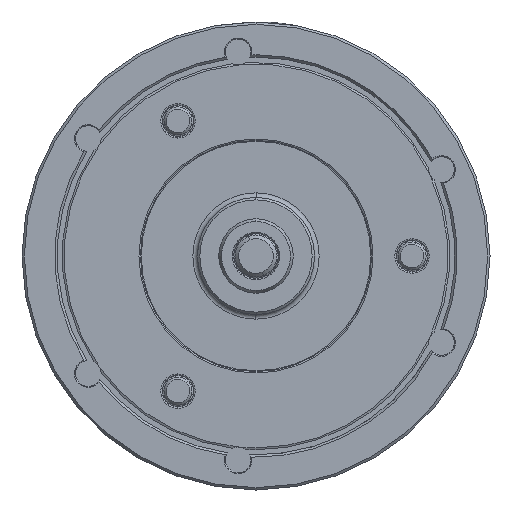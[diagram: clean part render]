
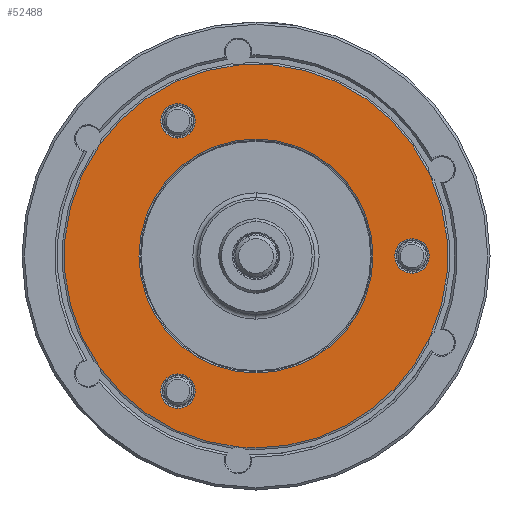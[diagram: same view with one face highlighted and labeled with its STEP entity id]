
A CAD part, left-side view. The second image highlights one B-rep face of the part: STEP entity #52488.
In plain terms, the highlighted planar face has unit normal (-1, 0, 0) as drawn and (0, 0, -1) by its records, which use the part's own axes.
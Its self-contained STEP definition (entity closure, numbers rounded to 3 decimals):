
#849 = CIRCLE ( 'NONE', #4214, 82. ) ;
#856 = AXIS2_PLACEMENT_3D ( 'NONE', #50148, #50081, #50033 ) ;
#1262 = AXIS2_PLACEMENT_3D ( 'NONE', #4658, #4594, #4538 ) ;
#1303 = CIRCLE ( 'NONE', #46710, 7.35 ) ;
#1384 = EDGE_LOOP ( 'NONE', ( #47715, #8548, #44531, #17719, #28834, #40669, #28831 ) ) ;
#1495 = CIRCLE ( 'NONE', #856, 82. ) ;
#1609 = CIRCLE ( 'NONE', #5305, 7.35 ) ;
#1864 = CARTESIAN_POINT ( 'NONE',  ( 7.35, -66.675, -83. ) ) ;
#1945 = AXIS2_PLACEMENT_3D ( 'NONE', #2808, #2752, #2493 ) ;
#2491 = AXIS2_PLACEMENT_3D ( 'NONE', #10646, #10642, #10584 ) ;
#2493 = DIRECTION ( 'NONE',  ( 1., 0., 0. ) ) ;
#2752 = DIRECTION ( 'NONE',  ( 0., 0., 1. ) ) ;
#2808 = CARTESIAN_POINT ( 'NONE',  ( 0., 0., -83. ) ) ;
#3345 = AXIS2_PLACEMENT_3D ( 'NONE', #27079, #27043, #26974 ) ;
#3351 = CARTESIAN_POINT ( 'NONE',  ( 0., -50., -83. ) ) ;
#3620 = EDGE_LOOP ( 'NONE', ( #51012, #45345 ) ) ;
#3848 = AXIS2_PLACEMENT_3D ( 'NONE', #35034, #35027, #34971 ) ;
#4214 = AXIS2_PLACEMENT_3D ( 'NONE', #32548, #32537, #32495 ) ;
#4538 = DIRECTION ( 'NONE',  ( 1., 0., 0. ) ) ;
#4594 = DIRECTION ( 'NONE',  ( 0., 0., 1. ) ) ;
#4658 = CARTESIAN_POINT ( 'NONE',  ( 0., 0., -83. ) ) ;
#5305 = AXIS2_PLACEMENT_3D ( 'NONE', #53949, #53913, #53847 ) ;
#5318 = CARTESIAN_POINT ( 'NONE',  ( 57.742, 33.338, -83. ) ) ;
#5916 = FACE_BOUND ( 'NONE', #24325, .T. ) ;
#6729 = ORIENTED_EDGE ( 'NONE', *, *, #10225, .T. ) ;
#7711 = DIRECTION ( 'NONE',  ( 0., 0., 1. ) ) ;
#7932 = AXIS2_PLACEMENT_3D ( 'NONE', #39203, #39152, #39137 ) ;
#8548 = ORIENTED_EDGE ( 'NONE', *, *, #29604, .F. ) ;
#9680 = DIRECTION ( 'NONE',  ( 1., 0., 0. ) ) ;
#10225 = EDGE_CURVE ( 'NONE', #47437, #18646, #1303, .T. ) ;
#10584 = DIRECTION ( 'NONE',  ( 1., 0., 0. ) ) ;
#10642 = DIRECTION ( 'NONE',  ( 0., 0., 1. ) ) ;
#10646 = CARTESIAN_POINT ( 'NONE',  ( 0., 0., -83. ) ) ;
#12364 = CIRCLE ( 'NONE', #3345, 7.35 ) ;
#12805 = CARTESIAN_POINT ( 'NONE',  ( 34.655, -74.317, -83. ) ) ;
#13046 = VERTEX_POINT ( 'NONE', #49740 ) ;
#13159 = VERTEX_POINT ( 'NONE', #45800 ) ;
#14035 = VERTEX_POINT ( 'NONE', #12805 ) ;
#14374 = DIRECTION ( 'NONE',  ( 0., 0., 1. ) ) ;
#15544 = CARTESIAN_POINT ( 'NONE',  ( 0., 0., -83. ) ) ;
#15936 = AXIS2_PLACEMENT_3D ( 'NONE', #3351, #7711, #37271 ) ;
#16033 = CIRCLE ( 'NONE', #20453, 7.35 ) ;
#17249 = FACE_OUTER_BOUND ( 'NONE', #1384, .T. ) ;
#17719 = ORIENTED_EDGE ( 'NONE', *, *, #30017, .F. ) ;
#18646 = VERTEX_POINT ( 'NONE', #26683 ) ;
#19435 = VERTEX_POINT ( 'NONE', #35440 ) ;
#19482 = VERTEX_POINT ( 'NONE', #32843 ) ;
#19834 = DIRECTION ( 'NONE',  ( 1., 0., 0. ) ) ;
#20232 = CARTESIAN_POINT ( 'NONE',  ( -81.688, 7.147, -83. ) ) ;
#20453 = AXIS2_PLACEMENT_3D ( 'NONE', #5318, #34981, #9680 ) ;
#21019 = CIRCLE ( 'NONE', #1262, 82. ) ;
#21246 = CARTESIAN_POINT ( 'NONE',  ( -47.033, 67.17, -83. ) ) ;
#21702 = VERTEX_POINT ( 'NONE', #21246 ) ;
#22738 = ORIENTED_EDGE ( 'NONE', *, *, #31764, .T. ) ;
#23701 = CARTESIAN_POINT ( 'NONE',  ( 82., 0., -83. ) ) ;
#23925 = CARTESIAN_POINT ( 'NONE',  ( 65.092, 33.338, -83. ) ) ;
#24325 = EDGE_LOOP ( 'NONE', ( #25718, #22738 ) ) ;
#24995 = VERTEX_POINT ( 'NONE', #23701 ) ;
#25095 = ORIENTED_EDGE ( 'NONE', *, *, #28875, .T. ) ;
#25718 = ORIENTED_EDGE ( 'NONE', *, *, #47933, .T. ) ;
#26473 = EDGE_CURVE ( 'NONE', #14035, #24995, #31122, .T. ) ;
#26683 = CARTESIAN_POINT ( 'NONE',  ( -7.35, -66.675, -83. ) ) ;
#26974 = DIRECTION ( 'NONE',  ( 1., 0., 0. ) ) ;
#27043 = DIRECTION ( 'NONE',  ( 0., 0., 1. ) ) ;
#27079 = CARTESIAN_POINT ( 'NONE',  ( 0., -66.675, -83. ) ) ;
#27378 = DIRECTION ( 'NONE',  ( 1., 0., 0. ) ) ;
#27393 = DIRECTION ( 'NONE',  ( 0., 0., 1. ) ) ;
#27513 = CARTESIAN_POINT ( 'NONE',  ( 0., 0., -83. ) ) ;
#28085 = EDGE_CURVE ( 'NONE', #19435, #31144, #1609, .T. ) ;
#28531 = VERTEX_POINT ( 'NONE', #38470 ) ;
#28539 = FACE_BOUND ( 'NONE', #29603, .T. ) ;
#28603 = AXIS2_PLACEMENT_3D ( 'NONE', #15544, #44751, #19834 ) ;
#28627 = EDGE_CURVE ( 'NONE', #53091, #19482, #43820, .T. ) ;
#28831 = ORIENTED_EDGE ( 'NONE', *, *, #31000, .F. ) ;
#28834 = ORIENTED_EDGE ( 'NONE', *, *, #30239, .F. ) ;
#28875 = EDGE_CURVE ( 'NONE', #18646, #47437, #12364, .T. ) ;
#29372 = EDGE_CURVE ( 'NONE', #43019, #13046, #41134, .T. ) ;
#29603 = EDGE_LOOP ( 'NONE', ( #6729, #25095 ) ) ;
#29604 = EDGE_CURVE ( 'NONE', #24995, #43019, #32128, .T. ) ;
#30017 = EDGE_CURVE ( 'NONE', #45542, #14035, #21019, .T. ) ;
#30239 = EDGE_CURVE ( 'NONE', #44759, #45542, #1495, .T. ) ;
#30843 = EDGE_CURVE ( 'NONE', #21702, #44759, #849, .T. ) ;
#31000 = EDGE_CURVE ( 'NONE', #13046, #21702, #49004, .T. ) ;
#31122 = CIRCLE ( 'NONE', #7932, 82. ) ;
#31144 = VERTEX_POINT ( 'NONE', #23925 ) ;
#31764 = EDGE_CURVE ( 'NONE', #13159, #28531, #48283, .T. ) ;
#32128 = CIRCLE ( 'NONE', #1945, 82. ) ;
#32170 = DIRECTION ( 'NONE',  ( 1., 0., 0. ) ) ;
#32238 = DIRECTION ( 'NONE',  ( 0., 0., 1. ) ) ;
#32298 = CARTESIAN_POINT ( 'NONE',  ( 0., 0., -83. ) ) ;
#32495 = DIRECTION ( 'NONE',  ( 1., 0., 0. ) ) ;
#32537 = DIRECTION ( 'NONE',  ( 0., 0., 1. ) ) ;
#32548 = CARTESIAN_POINT ( 'NONE',  ( 0., 0., -83. ) ) ;
#32843 = CARTESIAN_POINT ( 'NONE',  ( -50.392, 33.338, -83. ) ) ;
#33109 = PLANE ( 'NONE',  #15936 ) ;
#33428 = CARTESIAN_POINT ( 'NONE',  ( 81.688, 7.147, -83. ) ) ;
#34735 = CIRCLE ( 'NONE', #35259, 7.35 ) ;
#34971 = DIRECTION ( 'NONE',  ( 1., 0., 0. ) ) ;
#34981 = DIRECTION ( 'NONE',  ( 0., 0., 1. ) ) ;
#35027 = DIRECTION ( 'NONE',  ( 0., 0., 1. ) ) ;
#35034 = CARTESIAN_POINT ( 'NONE',  ( -57.742, 33.338, -83. ) ) ;
#35259 = AXIS2_PLACEMENT_3D ( 'NONE', #39469, #14374, #43629 ) ;
#35440 = CARTESIAN_POINT ( 'NONE',  ( 50.392, 33.338, -83. ) ) ;
#35751 = AXIS2_PLACEMENT_3D ( 'NONE', #27513, #27393, #27378 ) ;
#37271 = DIRECTION ( 'NONE',  ( 1., 0., 0. ) ) ;
#38470 = CARTESIAN_POINT ( 'NONE',  ( -50., 0., -83. ) ) ;
#38730 = EDGE_LOOP ( 'NONE', ( #53503, #50586 ) ) ;
#39041 = CIRCLE ( 'NONE', #28603, 50. ) ;
#39137 = DIRECTION ( 'NONE',  ( 1., 0., 0. ) ) ;
#39152 = DIRECTION ( 'NONE',  ( 0., 0., 1. ) ) ;
#39203 = CARTESIAN_POINT ( 'NONE',  ( 0., 0., -83. ) ) ;
#39469 = CARTESIAN_POINT ( 'NONE',  ( -57.742, 33.338, -83. ) ) ;
#39532 = FACE_BOUND ( 'NONE', #3620, .T. ) ;
#40669 = ORIENTED_EDGE ( 'NONE', *, *, #30843, .F. ) ;
#41134 = CIRCLE ( 'NONE', #2491, 82. ) ;
#41729 = DIRECTION ( 'NONE',  ( 0., 0., 1. ) ) ;
#41792 = CARTESIAN_POINT ( 'NONE',  ( 0., -66.675, -83. ) ) ;
#41969 = DIRECTION ( 'NONE',  ( 1., 0., 0. ) ) ;
#42093 = FACE_BOUND ( 'NONE', #38730, .T. ) ;
#43019 = VERTEX_POINT ( 'NONE', #33428 ) ;
#43629 = DIRECTION ( 'NONE',  ( 1., 0., 0. ) ) ;
#43820 = CIRCLE ( 'NONE', #3848, 7.35 ) ;
#44531 = ORIENTED_EDGE ( 'NONE', *, *, #26473, .F. ) ;
#44751 = DIRECTION ( 'NONE',  ( 0., 0., 1. ) ) ;
#44759 = VERTEX_POINT ( 'NONE', #20232 ) ;
#44927 = CARTESIAN_POINT ( 'NONE',  ( -65.092, 33.338, -83. ) ) ;
#45345 = ORIENTED_EDGE ( 'NONE', *, *, #28085, .T. ) ;
#45367 = EDGE_CURVE ( 'NONE', #19482, #53091, #34735, .T. ) ;
#45542 = VERTEX_POINT ( 'NONE', #45775 ) ;
#45775 = CARTESIAN_POINT ( 'NONE',  ( -34.655, -74.317, -83. ) ) ;
#45800 = CARTESIAN_POINT ( 'NONE',  ( 50., 0., -83. ) ) ;
#46710 = AXIS2_PLACEMENT_3D ( 'NONE', #41792, #41729, #41969 ) ;
#47437 = VERTEX_POINT ( 'NONE', #1864 ) ;
#47715 = ORIENTED_EDGE ( 'NONE', *, *, #29372, .F. ) ;
#47933 = EDGE_CURVE ( 'NONE', #28531, #13159, #39041, .T. ) ;
#48283 = CIRCLE ( 'NONE', #50963, 50. ) ;
#49004 = CIRCLE ( 'NONE', #35751, 82. ) ;
#49740 = CARTESIAN_POINT ( 'NONE',  ( 47.033, 67.17, -83. ) ) ;
#50033 = DIRECTION ( 'NONE',  ( 1., 0., 0. ) ) ;
#50081 = DIRECTION ( 'NONE',  ( 0., 0., 1. ) ) ;
#50148 = CARTESIAN_POINT ( 'NONE',  ( 0., 0., -83. ) ) ;
#50586 = ORIENTED_EDGE ( 'NONE', *, *, #28627, .T. ) ;
#50617 = EDGE_CURVE ( 'NONE', #31144, #19435, #16033, .T. ) ;
#50963 = AXIS2_PLACEMENT_3D ( 'NONE', #32298, #32238, #32170 ) ;
#51012 = ORIENTED_EDGE ( 'NONE', *, *, #50617, .T. ) ;
#52488 = ADVANCED_FACE ( 'NONE', ( #39532, #42093, #28539, #17249, #5916 ), #33109, .F. ) ;
#53091 = VERTEX_POINT ( 'NONE', #44927 ) ;
#53503 = ORIENTED_EDGE ( 'NONE', *, *, #45367, .T. ) ;
#53847 = DIRECTION ( 'NONE',  ( 1., 0., 0. ) ) ;
#53913 = DIRECTION ( 'NONE',  ( 0., 0., 1. ) ) ;
#53949 = CARTESIAN_POINT ( 'NONE',  ( 57.742, 33.338, -83. ) ) ;
